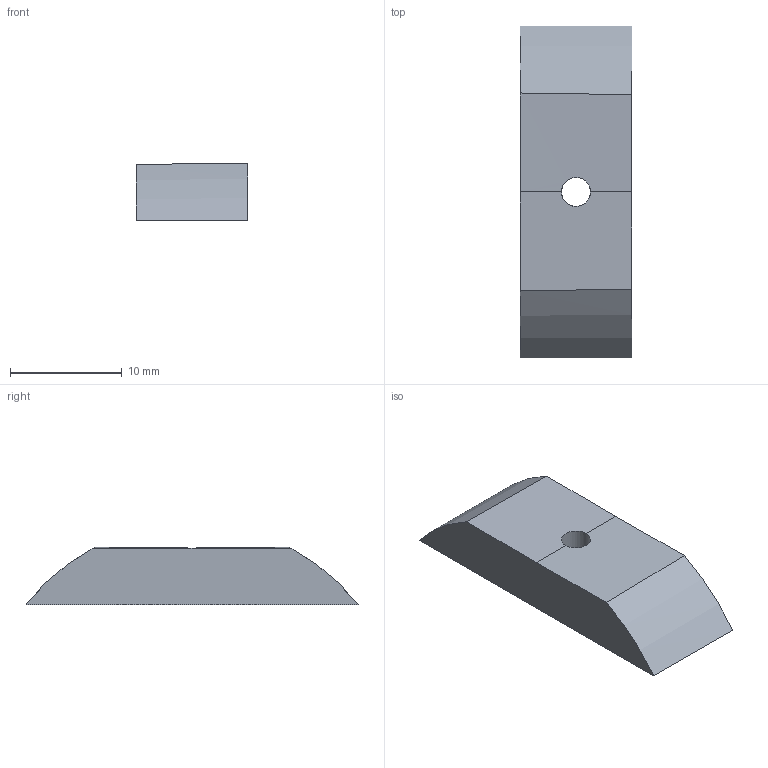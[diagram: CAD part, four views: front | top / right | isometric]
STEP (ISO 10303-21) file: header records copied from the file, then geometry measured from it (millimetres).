
FILE_DESCRIPTION(('SkyG Speed 90B - revision C6B-4 - 2026-10-08','NB2-wing-nut-bar-rear'),'2;1');
FILE_NAME('NB2-wing-nut-bar-rear_C6B-4','2026-10-08T07:02:32',('Author'),( 'Open CASCADE'),'Open CASCADE STEP processor 7.9','Open CASCADE 7.9' ,'Unknown');
FILE_SCHEMA(('AUTOMOTIVE_DESIGN { 1 0 10303 214 1 1 1 1 }'));
Length unit declared in the file: millimetre
Products named in the file (1): NB2-wing-nut-bar-rear C6B-4
Bounding box: 10 x 29.72 x 5.12 mm (x, y, z)
Volume: 1145.2 mm3; surface area: 945.7 mm2
Topology: 1 solids, 1 shells, 15 faces, 38 edges, 25 vertices
Faces by surface type: plane 10, cylinder 3, bspline 2
Full cylindrical faces by diameter (mm): 2.6 x1
Entity records: 2109 total; most frequent: CARTESIAN_POINT 1401, DIRECTION 103, ORIENTED_EDGE 76, PCURVE 76, DEFINITIONAL_REPRESENTATION 76, LINE 60, VECTOR 60, B_SPLINE_CURVE_WITH_KNOTS 44
